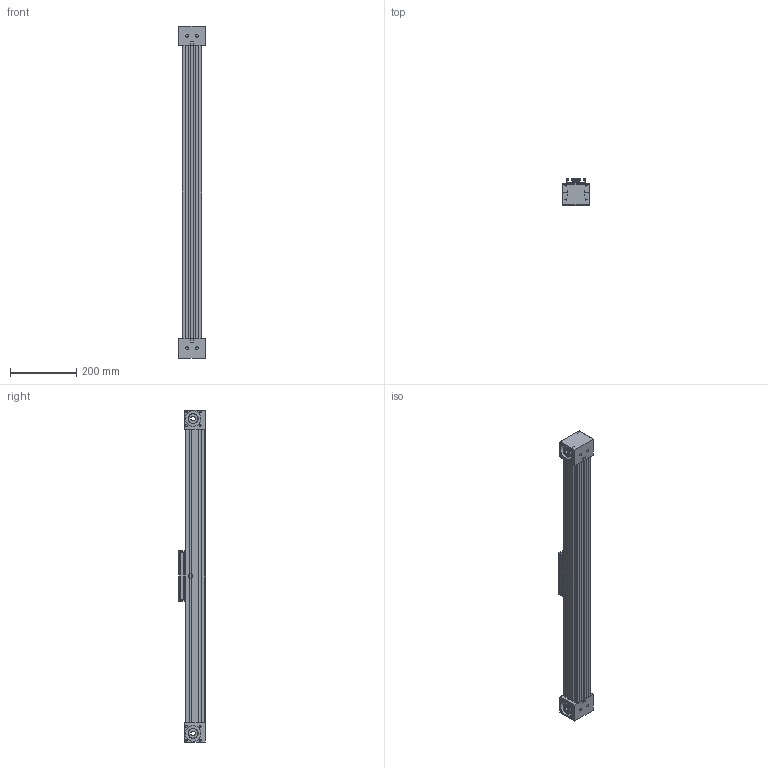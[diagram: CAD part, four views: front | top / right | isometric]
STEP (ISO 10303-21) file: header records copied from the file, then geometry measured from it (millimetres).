
FILE_DESCRIPTION (( 'STEP AP214' ), '1' );
FILE_NAME ('QLZ-60-Konfig.STEP', '2016-01-14T12:07:23', ( 'admin' ), ( '' ), 'SwSTEP 2.0', 'SolidWorks 2015', '' );
FILE_SCHEMA (( 'AUTOMOTIVE_DESIGN' ));
Length unit declared in the file: millimetre
Products named in the file (5): Bahr-QLZ-QLZ-60  1  0 0 0  0 3  1  780_QLZ Extrusion 60^QLZ60 - Konfig; Führungsschlitten QLZ 60 - Konfig^QLZ60 - Konfig_S0; Zahnriemenumlenkung QLZ 60 - Konfig^QLZ60 - Konfig_K links - N rechts; Zahnriemenumlenkung QLZ 60 - Konfig^QLZ60 - Konfig_K rechts - N links; QLZ-60-Konfig
Assembly tree (4 placements, depth 2):
  QLZ-60-Konfig
    Zahnriemenumlenkung QLZ 60 - Konfig^QLZ60 - Konfig_K rechts - N links
    Zahnriemenumlenkung QLZ 60 - Konfig^QLZ60 - Konfig_K links - N rechts
    Führungsschlitten QLZ 60 - Konfig^QLZ60 - Konfig_S0
    Bahr-QLZ-QLZ-60  1  0 0 0  0 3  1  780_QLZ Extrusion 60^QLZ60 - Konfig
Bounding box: 80 x 79 x 1000 mm (x, y, z)
Volume: 3518042.9 mm3; surface area: 408551.8 mm2
Topology: 8 solids, 8 shells, 359 faces, 895 edges, 590 vertices
Faces by surface type: plane 222, cylinder 125, torus 8, cone 4
Entity records: 11004 total; most frequent: DIRECTION 1905, CARTESIAN_POINT 1851, ORIENTED_EDGE 1790, EDGE_CURVE 895, AXIS2_PLACEMENT_3D 644, LINE 617, VECTOR 617, VERTEX_POINT 590
